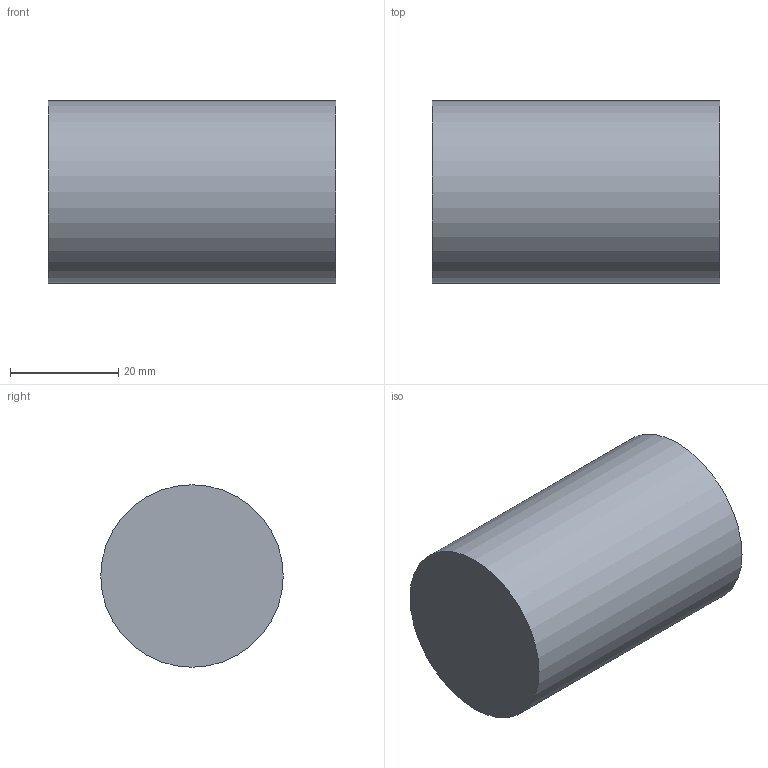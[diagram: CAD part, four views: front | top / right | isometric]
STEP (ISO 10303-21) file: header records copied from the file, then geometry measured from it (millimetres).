
FILE_DESCRIPTION(/* description */ (''),/* implementation_level */ '2;1');
FILE_NAME(/* name */ 'Endkappe 33.7.stp',/* time_stamp */ '2024-03-12T15:52:52+01:00',/* author */ ('peter.csaszar'),/* organization */ (''),/* preprocessor_version */ 'ST-DEVELOPER v20',/* originating_system */ 'Autodesk Inventor 2024',/* authorisation */ '');
FILE_SCHEMA (('AUTOMOTIVE_DESIGN { 1 0 10303 214 3 1 1 }'));
Length unit declared in the file: millimetre
Products named in the file (1): Bauteil1
Bounding box: 53 x 33.7 x 33.7 mm (x, y, z)
Volume: 11942 mm3; surface area: 12153.7 mm2
Topology: 1 solids, 1 shells, 5 faces, 6 edges, 4 vertices
Faces by surface type: plane 3, cylinder 2
Full cylindrical faces by diameter (mm): 29.7 x1, 33.7 x1
Entity records: 147 total; most frequent: DIRECTION 22, CARTESIAN_POINT 16, ORIENTED_EDGE 12, AXIS2_PLACEMENT_3D 10, EDGE_LOOP 6, EDGE_CURVE 6, FACE_OUTER_BOUND 5, ADVANCED_FACE 5
